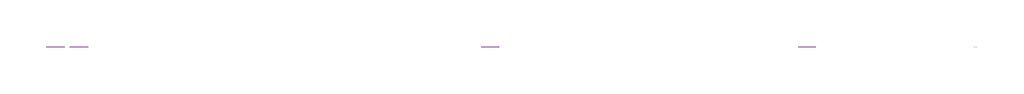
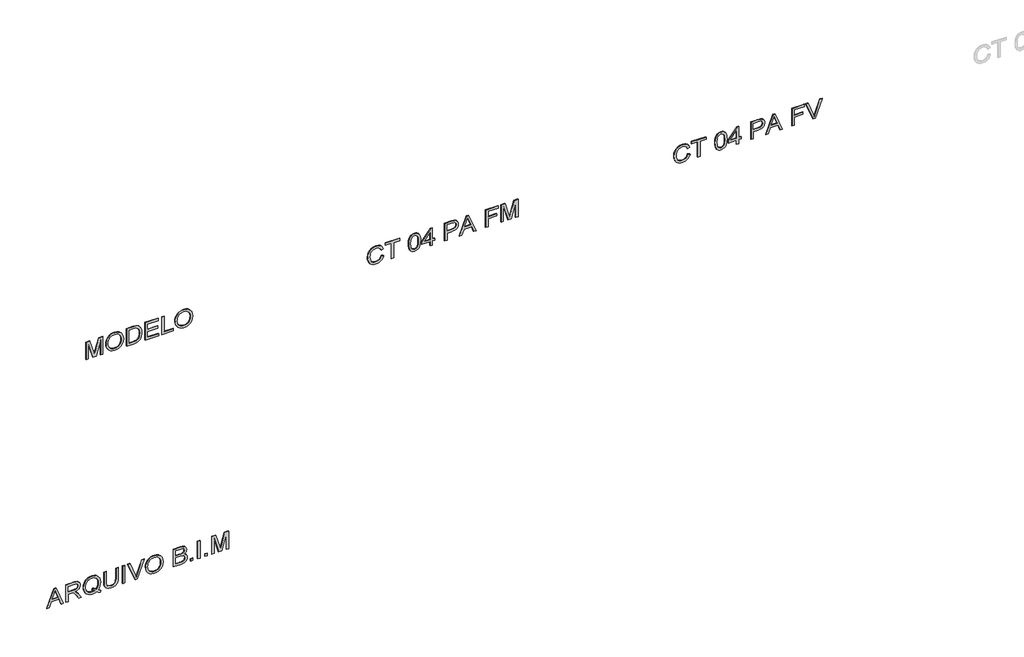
# One storey, part 1 of 2: 4 proxies.
"""IFC4 building model written with IfcOpenShell, lengths in millimetres."""

from ifc_helpers import new_model, si_unit, frame, origin, place, context, project, spatial, polyline, outline, extrude, element, save

model = new_model("IFC4")

# Units and contexts
model_context = context("Model", 3, world=origin())
ifc_project = project(units=[si_unit("LENGTHUNIT", "METRE", prefix="MILLI")], contexts=[model_context])

# Site, building, storey
site = spatial("IfcSite", under=ifc_project)
building = spatial("IfcBuilding", under=site)
storey = spatial("IfcBuildingStorey", under=building, Name="03 - Marelli - Planta Baixa - Cabine 04 Pessoas", Elevation=-24000.0)

# Proxies
placement = place(None, origin())
element("IfcBuildingElementProxy", 1, Name="300mm Arial", ObjectType="300mm Arial", at=placement, inside=storey, context=model_context, shape_type="SweptSolid", body=[
    extrude(outline(polyline([(-22400.0, -7636.3146377), (-22400.0, -7596.5098058), (-22305.8222092, -7562.076051), (-22305.8222092, -7437.9526659), (-22400.0, -7403.4453347), (-22400.0, -7363.6405028), (-22098.6310696, -7483.9379153), (-22098.6310696, -7516.0172252), (-22400.0, -7636.3146377)]), holes=[polyline([(-22268.1510929, -7548.243688), (-22187.584936, -7518.739552), (-22136.3021859, -7499.9775703), (-22194.0596591, -7478.8611437), (-22268.1510929, -7451.7114525), (-22268.1510929, -7548.243688)])]), frame((0.0, 8778.3159498, 0.0), z_axis=(0.0, 1.0, 0.0), x_axis=(0.0, 0.0, 1.0)), (0.0, 0.0, 1.0), 10.0),
    extrude(outline(polyline([(-22400.0, -7323.3942126), (-22400.0, -7285.7230963), (-22268.1510929, -7285.7230963), (-22268.1510929, -7240.2528817), (-22269.4754681, -7218.4006911), (-22276.649167, -7200.484838), (-22296.183701, -7180.582422), (-22337.5336372, -7152.2555084), (-22400.0, -7113.0392877), (-22400.0, -7069.2613303), (-22318.3301971, -7119.5140108), (-22279.5554348, -7150.0482164), (-22263.4422034, -7171.4589486), (-22253.4542072, -7134.3488523), (-22245.4389783, -7119.9669655), (-22235.4095954, -7108.3671864), (-22210.7982899, -7093.0540983), (-22181.1102129, -7087.9497357), (-22157.2438684, -7091.0307474), (-22135.5296337, -7100.2737825), (-22118.0184507, -7114.6763626), (-22106.7612616, -7133.2360093), (-22100.6636176, -7158.629064), (-22098.6310696, -7193.5318683), (-22098.6310696, -7323.3942126), (-22400.0, -7323.3942126)]), holes=[polyline([(-22230.4799766, -7285.7230963), (-22136.3021859, -7285.7230963), (-22136.3021859, -7191.9131875), (-22139.5579415, -7162.1055488), (-22149.3252085, -7141.5501423), (-22164.1324588, -7129.6031746), (-22182.5081645, -7125.620852), (-22195.8162956, -7127.7085823), (-22208.0759631, -7133.9717732), (-22218.2111121, -7144.254075), (-22225.1456877, -7158.3991377), (-22229.1464044, -7177.1887106), (-22230.4799766, -7201.404543), (-22230.4799766, -7285.7230963)])]), frame((0.0, 8778.3159498, 0.0), z_axis=(0.0, 1.0, 0.0), x_axis=(0.0, 0.0, 1.0)), (0.0, 0.0, 1.0), 10.0),
    extrude(outline(polyline([(-22363.8739881, -6795.6307023), (-22340.3479345, -6777.1814202), (-22313.0326963, -6764.0664271), (-22281.9650618, -6756.2305406), (-22247.1818192, -6753.6185784), (-22205.3536364, -6757.9227978), (-22168.0136138, -6770.8354558), (-22136.8172207, -6791.9610794), (-22113.4199258, -6820.9041954), (-22098.7966164, -6855.7702114), (-22093.92218, -6894.6645354), (-22098.6862519, -6933.2553567), (-22112.9784674, -6967.9466288), (-22136.3849593, -6996.93573), (-22168.4918604, -7018.4200386), (-22206.944726, -7031.7189727), (-22249.3891112, -7036.1519507), (-22291.7967082, -7031.7097756), (-22329.6977507, -7018.3832504), (-22361.3539964, -6996.8161684), (-22385.0272028, -6967.6523232), (-22399.7884679, -6932.8322924), (-22404.7088895, -6894.2966534), (-22400.4414584, -6855.9449554), (-22387.639165, -6821.0881364), (-22408.47968, -6790.1308665), (-22422.8822601, -6759.063232), (-22395.2911105, -6748.9096889), (-22382.4704229, -6771.2953083), (-22363.8739881, -6795.6307023)]), holes=[polyline([(-22313.7684603, -6883.9223811), (-22342.6104088, -6893.6344658), (-22349.287467, -6873.2721974), (-22359.3122513, -6853.9767867), (-22365.1063928, -6873.6032912), (-22367.0377732, -6894.5173826), (-22365.1362832, -6916.2385151), (-22359.431813, -6935.9316982), (-22349.9243627, -6953.5969318), (-22336.6139322, -6969.2342158), (-22319.748842, -6982.0296115), (-22299.5774124, -6991.1691798), (-22276.0996433, -6996.6529208), (-22249.3155348, -6998.4808344), (-22221.8140564, -6996.6322274), (-22197.9500112, -6991.0864063), (-22177.7233993, -6981.8433712), (-22161.1342205, -6968.903122), (-22148.2100662, -6953.1577726), (-22138.9785274, -6935.4994369), (-22133.4396041, -6915.9281147), (-22131.5932963, -6894.4438062), (-22135.2445251, -6865.9605427), (-22146.1982115, -6840.4019411), (-22163.7645768, -6819.2027411), (-22187.2538422, -6803.7976826), (-22215.9394408, -6794.4166917), (-22249.0948056, -6791.2896947), (-22278.2678478, -6793.5015852), (-22303.5413409, -6800.1372567), (-22324.9152848, -6811.1967092), (-22342.3896796, -6826.6799427), (-22325.7430193, -6852.2477413), (-22313.7684603, -6883.9223811)])]), frame((0.0, 8778.3159498, 0.0), z_axis=(0.0, 1.0, 0.0), x_axis=(0.0, 0.0, 1.0)), (0.0, 0.0, 1.0), 10.0),
    extrude(outline(polyline([(-22098.6310696, -6499.3385434), (-22271.1677253, -6499.3385434), (-22318.3301971, -6504.1026152), (-22335.0688279, -6510.057705), (-22347.2457219, -6518.3948307), (-22355.9047444, -6529.5278596), (-22362.0897604, -6543.8706589), (-22367.0377732, -6582.1855687), (-22364.5361757, -6606.3554158), (-22357.031383, -6626.4785609), (-22344.9188683, -6641.9112106), (-22328.5941047, -6652.0095714), (-22305.0220659, -6657.5829836), (-22271.1677253, -6659.4407877), (-22098.6310696, -6659.4407877), (-22098.6310696, -6697.111904), (-22272.4921005, -6697.111904), (-22315.2675795, -6694.2516215), (-22347.9446977, -6685.6707739), (-22372.3076828, -6670.4036711), (-22390.1407625, -6647.4846228), (-22401.0668578, -6616.904432), (-22404.7088895, -6578.6539015), (-22400.5242318, -6539.5480454), (-22387.9702588, -6508.7563224), (-22368.7484245, -6486.2235502), (-22344.5601833, -6471.8945465), (-22313.2074403, -6464.2242069), (-22272.4921005, -6461.6674271), (-22098.6310696, -6461.6674271), (-22098.6310696, -6499.3385434)])), frame((0.0, 8778.3159498, 0.0), z_axis=(0.0, 1.0, 0.0), x_axis=(0.0, 0.0, 1.0)), (0.0, 0.0, 1.0), 10.0),
    extrude(outline(polyline([(-6353.3629677, 8778.3159498), (-6391.034084, 8778.3159498), (-6391.034084, 8788.3159498), (-6353.3629677, 8788.3159498), (-6353.3629677, 8778.3159498)])), frame((0.0, 0.0, -22400.0), z_axis=(0.0, 0.0, 1.0), x_axis=(1.0, 0.0, 0.0)), (0.0, 0.0, 1.0), 301.3689304),
    extrude(outline(polyline([(-22400.0, -6188.9932922), (-22400.0, -6150.0713771), (-22098.6310696, -6035.2186183), (-22098.6310696, -6075.5384849), (-22315.7550231, -6156.0310655), (-22364.6833285, -6172.0707205), (-22315.7550231, -6188.3311046), (-22098.6310696, -6268.602956), (-22098.6310696, -6308.9228227), (-22400.0, -6188.9932922)])), frame((0.0, 8778.3159498, 0.0), z_axis=(0.0, 1.0, 0.0), x_axis=(0.0, 0.0, 1.0)), (0.0, 0.0, 1.0), 10.0),
    extrude(outline(polyline([(-22253.2886603, -6014.3229209), (-22291.8334964, -6010.0187016), (-22328.2997991, -5997.1060436), (-22359.992833, -5975.8424642), (-22384.2178624, -5946.485481), (-22399.5861328, -5910.8377157), (-22404.7088895, -5870.70179), (-22400.0735764, -5832.892718), (-22386.167637, -5797.7507904), (-22363.2485887, -5767.7868019), (-22331.5739489, -5745.5115471), (-22293.1118863, -5731.6883811), (-22249.8305696, -5727.0806591), (-22207.1194699, -5731.4584548), (-22169.1908362, -5744.5918421), (-22137.5713787, -5766.0761506), (-22113.7878078, -5795.5067102), (-22098.8885869, -5830.9521404), (-22093.92218, -5870.4810608), (-22096.5663319, -5900.7715446), (-22104.4987874, -5928.1465636), (-22117.7195466, -5952.6061177), (-22136.2286095, -5974.1502071), (-22159.4097737, -5991.7257694), (-22186.6468369, -6004.2797425), (-22217.9397991, -6011.8121263), (-22253.2886603, -6014.3229209)]), holes=[polyline([(-22253.6565423, -5976.6518046), (-22223.1200375, -5974.6882345), (-22197.2878236, -5968.797524), (-22176.1599008, -5958.9796733), (-22159.736269, -5945.2346822), (-22147.4237184, -5928.7673644), (-22138.6290395, -5910.7825334), (-22133.3522321, -5891.2801891), (-22131.5932963, -5870.2603316), (-22135.2445251, -5841.0964864), (-22146.1982115, -5814.9676677), (-22163.7921679, -5793.3086153), (-22187.3642068, -5777.5540688), (-22216.1877611, -5767.9523488), (-22249.536264, -5764.7517754), (-22276.0743514, -5766.6210758), (-22299.4026684, -5772.228977), (-22319.521215, -5781.5754789), (-22336.4299912, -5794.6605816), (-22349.8208959, -5810.642755), (-22359.3858277, -5828.6804691), (-22365.1247869, -5848.7737238), (-22367.0377732, -5870.9225192), (-22365.143181, -5892.6988341), (-22359.4594041, -5912.557564), (-22349.9864428, -5930.4987091), (-22336.7242968, -5946.5222692), (-22320.1650085, -5959.703941), (-22300.80062, -5969.1194208), (-22278.6311313, -5974.7687087), (-22253.6565423, -5976.6518046)])]), frame((0.0, 8778.3159498, 0.0), z_axis=(0.0, 1.0, 0.0), x_axis=(0.0, 0.0, 1.0)), (0.0, 0.0, 1.0), 10.0),
    extrude(outline(polyline([(-22400.0, -5557.5606357), (-22400.0, -5443.4436408), (-22394.8128639, -5395.1407348), (-22388.3933231, -5377.10532), (-22379.5089729, -5362.3624491), (-22367.2401083, -5350.3235108), (-22350.6670244, -5340.399894), (-22331.1784758, -5333.7504269), (-22310.1632168, -5331.5339379), (-22284.944906, -5334.7804965), (-22263.2950506, -5344.5201723), (-22246.3356906, -5360.2931129), (-22235.1888662, -5381.6394656), (-22223.4442335, -5363.7695977), (-22208.5174215, -5351.0684718), (-22191.456894, -5343.4809057), (-22173.3111146, -5340.951717), (-22153.5926396, -5343.9591523), (-22134.7570815, -5352.9814582), (-22118.7450176, -5367.3104619), (-22107.4970256, -5386.2379906), (-22100.8475586, -5410.9320695), (-22098.6310696, -5442.560724), (-22098.6310696, -5557.5606357), (-22400.0, -5557.5606357)]), holes=[polyline([(-22221.0621975, -5519.8895194), (-22136.3021859, -5519.8895194), (-22136.3021859, -5456.3195106), (-22140.2385232, -5407.9062401), (-22145.8395266, -5395.4166463), (-22154.769862, -5386.2012024), (-22166.2109921, -5380.5174255), (-22179.3443793, -5378.6228333), (-22192.8732397, -5380.6553813), (-22203.8821084, -5386.7530254), (-22212.2422267, -5396.8605832), (-22217.824836, -5410.9228724), (-22221.0621975, -5451.0955863), (-22221.0621975, -5519.8895194)]), polyline([(-22362.3288837, -5519.8895194), (-22258.7333139, -5519.8895194), (-22258.7333139, -5446.3131204), (-22259.9933097, -5419.4853259), (-22263.7732972, -5399.776048), (-22270.6618875, -5385.8609115), (-22281.247692, -5376.4155413), (-22294.7857494, -5371.007676), (-22310.5310988, -5369.2050542), (-22324.0875503, -5370.7409615), (-22335.9149564, -5375.3486835), (-22352.6535872, -5391.0204565), (-22360.8573557, -5414.6752688), (-22362.3288837, -5442.6343004), (-22362.3288837, -5519.8895194)])]), frame((0.0, 8778.3159498, 0.0), z_axis=(0.0, 1.0, 0.0), x_axis=(0.0, 0.0, 1.0)), (0.0, 0.0, 1.0), 10.0),
    extrude(outline(polyline([(-5237.3561471, 8778.3159498), (-5275.0272634, 8778.3159498), (-5275.0272634, 8788.3159498), (-5237.3561471, 8788.3159498), (-5237.3561471, 8778.3159498)])), frame((0.0, 0.0, -22400.0), z_axis=(0.0, 0.0, 1.0), x_axis=(1.0, 0.0, 0.0)), (0.0, 0.0, 1.0), 37.6711163),
    extrude(outline(polyline([(-5119.6339087, 8778.3159498), (-5157.305025, 8778.3159498), (-5157.305025, 8788.3159498), (-5119.6339087, 8788.3159498), (-5119.6339087, 8778.3159498)])), frame((0.0, 0.0, -22400.0), z_axis=(0.0, 0.0, 1.0), x_axis=(1.0, 0.0, 0.0)), (0.0, 0.0, 1.0), 301.3689304),
    extrude(outline(polyline([(-5001.9116702, 8778.3159498), (-5039.5827865, 8778.3159498), (-5039.5827865, 8788.3159498), (-5001.9116702, 8788.3159498), (-5001.9116702, 8778.3159498)])), frame((0.0, 0.0, -22400.0), z_axis=(0.0, 0.0, 1.0), x_axis=(1.0, 0.0, 0.0)), (0.0, 0.0, 1.0), 37.6711163),
    extrude(outline(polyline([(-22400.0, -4926.5694376), (-22400.0, -4888.8983213), (-22136.3021859, -4888.8983213), (-22400.0, -4813.1882067), (-22400.0, -4762.1261857), (-22136.3021859, -4686.4160711), (-22400.0, -4686.4160711), (-22400.0, -4648.7449548), (-22098.6310696, -4648.7449548), (-22098.6310696, -4713.5657624), (-22307.3673136, -4774.1927152), (-22355.4127022, -4787.6571962), (-22311.0461336, -4800.0916076), (-22098.6310696, -4861.74863), (-22098.6310696, -4926.5694376), (-22400.0, -4926.5694376)])), frame((0.0, 8778.3159498, 0.0), z_axis=(0.0, 1.0, 0.0), x_axis=(0.0, 0.0, 1.0)), (0.0, 0.0, 1.0), 10.0),
])
element("IfcBuildingElementProxy", 2, Name="300mm Arial", ObjectType="300mm Arial", at=placement, inside=storey, context=model_context, shape_type="SweptSolid", body=[
    extrude(outline(polyline([(-18300.0, -6993.7719449), (-18300.0, -6956.1008286), (-18036.3021859, -6956.1008286), (-18300.0, -6880.390714), (-18300.0, -6829.328693), (-18036.3021859, -6753.6185784), (-18300.0, -6753.6185784), (-18300.0, -6715.9474621), (-17998.6310696, -6715.9474621), (-17998.6310696, -6780.7682697), (-18207.3673136, -6841.3952225), (-18255.4127022, -6854.8597035), (-18211.0461336, -6867.2941149), (-17998.6310696, -6928.9511373), (-17998.6310696, -6993.7719449), (-18300.0, -6993.7719449)])), frame((0.0, 8778.3159498, 0.0), z_axis=(0.0, 1.0, 0.0), x_axis=(0.0, 0.0, 1.0)), (0.0, 0.0, 1.0), 10.0),
    extrude(outline(polyline([(-18153.2886603, -6664.1496772), (-18191.8334964, -6659.8454579), (-18228.2997991, -6646.9327998), (-18259.992833, -6625.6692205), (-18284.2178624, -6596.3122373), (-18299.5861328, -6560.664472), (-18304.7088895, -6520.5285463), (-18300.0735764, -6482.7194742), (-18286.167637, -6447.5775466), (-18263.2485887, -6417.6135581), (-18231.5739489, -6395.3383033), (-18193.1118863, -6381.5151374), (-18149.8305696, -6376.9074154), (-18107.1194699, -6381.2852111), (-18069.1908362, -6394.4185983), (-18037.5713787, -6415.9029069), (-18013.7878078, -6445.3334665), (-17998.8885869, -6480.7788967), (-17993.92218, -6520.3078171), (-17996.5663319, -6550.5983009), (-18004.4987874, -6577.9733198), (-18017.7195466, -6602.432874), (-18036.2286095, -6623.9769633), (-18059.4097737, -6641.5525257), (-18086.6468369, -6654.1064987), (-18117.9397991, -6661.6388826), (-18153.2886603, -6664.1496772)]), holes=[polyline([(-18153.6565423, -6626.4785609), (-18123.1200375, -6624.5149908), (-18097.2878236, -6618.6242803), (-18076.1599008, -6608.8064296), (-18059.736269, -6595.0614385), (-18047.4237184, -6578.5941207), (-18038.6290395, -6560.6092897), (-18033.3522321, -6541.1069454), (-18031.5932963, -6520.0870879), (-18035.2445251, -6490.9232427), (-18046.1982115, -6464.794424), (-18063.7921679, -6443.1353716), (-18087.3642068, -6427.3808251), (-18116.1877611, -6417.779105), (-18149.536264, -6414.5785317), (-18176.0743514, -6416.4478321), (-18199.4026684, -6422.0557332), (-18219.521215, -6431.4022352), (-18236.4299912, -6444.4873379), (-18249.8208959, -6460.4695113), (-18259.3858277, -6478.5072254), (-18265.1247869, -6498.6004801), (-18267.0377732, -6520.7492755), (-18265.143181, -6542.5255903), (-18259.4594041, -6562.3843203), (-18249.9864428, -6580.3254653), (-18236.7242968, -6596.3490255), (-18220.1650085, -6609.5306972), (-18200.80062, -6618.9461771), (-18178.6311313, -6624.5954649), (-18153.6565423, -6626.4785609)])]), frame((0.0, 8778.3159498, 0.0), z_axis=(0.0, 1.0, 0.0), x_axis=(0.0, 0.0, 1.0)), (0.0, 0.0, 1.0), 10.0),
    extrude(outline(polyline([(-18300.0, -6325.1096305), (-18300.0, -6216.1429835), (-18294.8496521, -6167.6929247), (-18288.4944906, -6148.1491937), (-18279.7297021, -6131.6772774), (-18267.911493, -6117.3298796), (-18252.3960698, -6104.1597042), (-18232.7419742, -6092.7185741), (-18208.5077478, -6083.5583124), (-18180.0428784, -6077.5434418), (-18147.696854, -6075.5384849), (-18109.6210675, -6078.499935), (-18076.0334413, -6087.3842852), (-18047.4857985, -6102.2283237), (-18024.529962, -6123.0688387), (-18011.3413925, -6143.3391366), (-18002.9720771, -6167.3618309), (-17998.6310696, -6221.1461786), (-17998.6310696, -6325.1096305), (-18300.0, -6325.1096305)]), holes=[polyline([(-18262.3288837, -6287.4385141), (-18036.3021859, -6287.4385141), (-18036.3021859, -6221.8083662), (-18037.810502, -6190.06015), (-18042.3354506, -6168.3919005), (-18054.9170148, -6147.10073), (-18075.7391357, -6129.2860444), (-18106.0526121, -6117.228712), (-18147.1082428, -6113.2096012), (-18178.0931038, -6115.2605434), (-18204.0931639, -6121.4133697), (-18225.2003933, -6131.245016), (-18241.5067628, -6144.332418), (-18250.3175366, -6156.5093121), (-18256.8842302, -6172.2914497), (-18260.9677203, -6193.2055411), (-18262.3288837, -6220.7782966), (-18262.3288837, -6287.4385141)])]), frame((0.0, 8778.3159498, 0.0), z_axis=(0.0, 1.0, 0.0), x_axis=(0.0, 0.0, 1.0)), (0.0, 0.0, 1.0), 10.0),
    extrude(outline(polyline([(-18300.0, -6023.7407), (-18300.0, -5802.4228917), (-18262.3288837, -5802.4228917), (-18262.3288837, -5986.0695837), (-18163.4422034, -5986.0695837), (-18163.4422034, -5816.5495603), (-18125.7710871, -5816.5495603), (-18125.7710871, -5986.0695837), (-18036.3021859, -5986.0695837), (-18036.3021859, -5807.1317812), (-17998.6310696, -5807.1317812), (-17998.6310696, -6023.7407), (-18300.0, -6023.7407)])), frame((0.0, 8778.3159498, 0.0), z_axis=(0.0, 1.0, 0.0), x_axis=(0.0, 0.0, 1.0)), (0.0, 0.0, 1.0), 10.0),
    extrude(outline(polyline([(-18300.0, -5745.9162172), (-18300.0, -5557.5606357), (-18262.3288837, -5557.5606357), (-18262.3288837, -5708.2451009), (-17998.6310696, -5708.2451009), (-17998.6310696, -5745.9162172), (-18300.0, -5745.9162172)])), frame((0.0, 8778.3159498, 0.0), z_axis=(0.0, 1.0, 0.0), x_axis=(0.0, 0.0, 1.0)), (0.0, 0.0, 1.0), 10.0),
    extrude(outline(polyline([(-18153.2886603, -5529.3072985), (-18191.8334964, -5525.0030791), (-18228.2997991, -5512.0904211), (-18259.992833, -5490.8268418), (-18284.2178624, -5461.4698586), (-18299.5861328, -5425.8220932), (-18304.7088895, -5385.6861676), (-18300.0735764, -5347.8770955), (-18286.167637, -5312.7351679), (-18263.2485887, -5282.7711794), (-18231.5739489, -5260.4959246), (-18193.1118863, -5246.6727586), (-18149.8305696, -5242.0650367), (-18107.1194699, -5246.4428324), (-18069.1908362, -5259.5762196), (-18037.5713787, -5281.0605281), (-18013.7878078, -5310.4910878), (-17998.8885869, -5345.936518), (-17993.92218, -5385.4654384), (-17996.5663319, -5415.7559222), (-18004.4987874, -5443.1309411), (-18017.7195466, -5467.5904953), (-18036.2286095, -5489.1345846), (-18059.4097737, -5506.7101469), (-18086.6468369, -5519.26412), (-18117.9397991, -5526.7965039), (-18153.2886603, -5529.3072985)]), holes=[polyline([(-18153.6565423, -5491.6361822), (-18123.1200375, -5489.672612), (-18097.2878236, -5483.7819016), (-18076.1599008, -5473.9640508), (-18059.736269, -5460.2190598), (-18047.4237184, -5443.751742), (-18038.6290395, -5425.7669109), (-18033.3522321, -5406.2645667), (-18031.5932963, -5385.2447092), (-18035.2445251, -5356.080864), (-18046.1982115, -5329.9520453), (-18063.7921679, -5308.2929928), (-18087.3642068, -5292.5384464), (-18116.1877611, -5282.9367263), (-18149.536264, -5279.736153), (-18176.0743514, -5281.6054533), (-18199.4026684, -5287.2133545), (-18219.521215, -5296.5598565), (-18236.4299912, -5309.6449592), (-18249.8208959, -5325.6271326), (-18259.3858277, -5343.6648467), (-18265.1247869, -5363.7581014), (-18267.0377732, -5385.9068968), (-18265.143181, -5407.6832116), (-18259.4594041, -5427.5419416), (-18249.9864428, -5445.4830866), (-18236.7242968, -5461.5066468), (-18220.1650085, -5474.6883185), (-18200.80062, -5484.1037983), (-18178.6311313, -5489.7530862), (-18153.6565423, -5491.6361822)])]), frame((0.0, 8778.3159498, 0.0), z_axis=(0.0, 1.0, 0.0), x_axis=(0.0, 0.0, 1.0)), (0.0, 0.0, 1.0), 10.0),
])
element("IfcBuildingElementProxy", 3, Name="300mm Arial", ObjectType="300mm Arial", at=placement, inside=storey, context=model_context, shape_type="SweptSolid", body=[
    extrude(outline(polyline([(-18192.872763, -2142.1019653), (-18225.136014, -2154.2880564), (-18248.3493679, -2174.0709107), (-18262.3656719, -2200.2733058), (-18267.0377732, -2231.7180194), (-18263.6072736, -2258.6929667), (-18253.3157748, -2283.6997453), (-18236.0897004, -2304.5586544), (-18211.855474, -2319.0899932), (-18181.7627268, -2327.6156585), (-18146.96109, -2330.4575469), (-18118.5422059, -2328.0571169), (-18090.9694503, -2320.8558268), (-18066.5788741, -2307.7316366), (-18047.7065277, -2287.5625062), (-18035.6216042, -2260.9830321), (-18031.5932963, -2228.6278106), (-18035.226131, -2200.5584144), (-18046.1246351, -2177.7129425), (-18064.9693903, -2159.8706657), (-18092.4409783, -2146.8108549), (-18083.4646576, -2109.1397386), (-18045.6463885, -2125.7772018), (-18030.3241034, -2137.5793161), (-18017.3930513, -2151.7036854), (-18007.1245451, -2167.8835954), (-17999.7898978, -2185.8523316), (-17993.92218, -2227.1562826), (-17998.4563256, -2265.0113399), (-18012.0587624, -2299.5554593), (-18034.3983965, -2328.6825162), (-18065.1441343, -2350.2863864), (-18103.0911621, -2363.668094), (-18147.0346664, -2368.1286632), (-18188.6973024, -2364.1831288), (-18227.6008233, -2352.3465256), (-18260.6918088, -2332.9591444), (-18284.9168382, -2306.3612762), (-18299.7608767, -2271.660807), (-18304.7088895, -2227.965623), (-18303.0741139, -2205.5432154), (-18298.1697871, -2184.9234296), (-18289.995909, -2166.1062655), (-18278.5524797, -2149.0917233), (-18263.995849, -2134.2154951), (-18246.4823668, -2121.8132733), (-18226.012033, -2111.885058), (-18202.5848477, -2104.430849), (-18192.872763, -2142.1019653)])), frame((0.0, 8778.3159498, 0.0), z_axis=(0.0, 1.0, 0.0), x_axis=(0.0, 0.0, 1.0)), (0.0, 0.0, 1.0), 10.0),
    extrude(outline(polyline([(-18300.0, -1977.2908315), (-18300.0, -1939.6197152), (-18036.3021859, -1939.6197152), (-18036.3021859, -1840.7330349), (-17998.6310696, -1840.7330349), (-17998.6310696, -2076.1775118), (-18036.3021859, -2076.1775118), (-18036.3021859, -1977.2908315), (-18300.0, -1977.2908315)])), frame((0.0, 8778.3159498, 0.0), z_axis=(0.0, 1.0, 0.0), x_axis=(0.0, 0.0, 1.0)), (0.0, 0.0, 1.0), 10.0),
    extrude(outline(polyline([(-18151.7435559, -1694.7574592), (-18191.1851044, -1692.881261), (-18225.0440435, -1687.2526665), (-18253.3203733, -1677.8716756), (-18276.0140939, -1664.7382884), (-18288.568067, -1651.0530782), (-18297.5351906, -1635.0134232), (-18302.9154648, -1616.6193234), (-18304.7088895, -1595.8707789), (-18300.5794141, -1565.4193468), (-18288.190988, -1540.7252678), (-18267.4056552, -1521.6229952), (-18238.0854602, -1507.9469821), (-18199.7061711, -1499.7248195), (-18151.7435559, -1496.9840986), (-18111.7823742, -1498.6947499), (-18080.9262719, -1503.8267037), (-18056.6276661, -1511.6625902), (-18036.3389741, -1521.4850395), (-18020.1981515, -1534.489668), (-18008.3431542, -1551.8720923), (-18001.0590907, -1572.657425), (-17998.6310696, -1595.8707789), (-18002.7329538, -1626.1566642), (-18015.0386065, -1650.7955608), (-18035.7411658, -1669.9254245), (-18065.0337697, -1683.6842112), (-18103.5050293, -1691.9891472), (-18151.7435559, -1694.7574592)]), holes=[polyline([(-18151.6699795, -1657.0863429), (-18093.1767423, -1652.5246062), (-18072.097104, -1646.8224352), (-18056.4621192, -1638.8393959), (-18041.3421692, -1619.8934732), (-18036.3021859, -1596.3122373), (-18042.0227509, -1571.4066262), (-18059.184446, -1551.7249395), (-18073.5456393, -1544.256935), (-18093.7469594, -1538.9226461), (-18151.6699795, -1534.6552149), (-18210.8346014, -1539.0697988), (-18231.0980016, -1544.5880288), (-18245.1487945, -1552.3135507), (-18261.5655286, -1572.0320256), (-18267.0377732, -1595.8707789), (-18261.5839227, -1619.7095322), (-18245.2223709, -1639.4280071), (-18231.1945706, -1647.153529), (-18210.9265719, -1652.671759), (-18151.6699795, -1657.0863429)])]), frame((0.0, 8778.3159498, 0.0), z_axis=(0.0, 1.0, 0.0), x_axis=(0.0, 0.0, 1.0)), (0.0, 0.0, 1.0), 10.0),
    extrude(outline(polyline([(-18300.0, -1341.5907438), (-18300.0, -1303.9196275), (-18229.3666569, -1303.9196275), (-18229.3666569, -1266.2485112), (-18191.6955406, -1266.2485112), (-18191.6955406, -1303.9196275), (-18003.3399591, -1303.9196275), (-18003.3399591, -1332.1729648), (-18191.6955406, -1478.1485404), (-18229.3666569, -1478.1485404), (-18229.3666569, -1341.5907438), (-18300.0, -1341.5907438)]), holes=[polyline([(-18191.6955406, -1341.5907438), (-18191.6955406, -1431.7954091), (-18075.2976773, -1341.5907438), (-18191.6955406, -1341.5907438)])]), frame((0.0, 8778.3159498, 0.0), z_axis=(0.0, 1.0, 0.0), x_axis=(0.0, 0.0, 1.0)), (0.0, 0.0, 1.0), 10.0),
    extrude(outline(polyline([(-18300.0, -1101.4373774), (-18300.0, -1063.7662611), (-18177.568872, -1063.7662611), (-18177.568872, -987.1732297), (-18175.904206, -957.9748956), (-18170.9102079, -933.6555964), (-18162.5868778, -914.2153323), (-18150.9342156, -899.654103), (-18136.8765248, -889.0476053), (-18121.338109, -881.4715354), (-18104.3189682, -876.9258935), (-18085.8191024, -875.4106796), (-18064.362385, -877.6547597), (-18044.7266835, -884.3870002), (-18028.0800233, -894.8072577), (-18015.5904295, -908.1153889), (-18006.8624292, -924.6424876), (-18001.5005491, -944.7196474), (-17998.6310696, -989.7484037), (-17998.6310696, -1101.4373774), (-18300.0, -1101.4373774)]), holes=[polyline([(-18139.8977557, -1063.7662611), (-18036.3021859, -1063.7662611), (-18036.3021859, -985.8488545), (-18038.8773598, -948.1777382), (-18045.2049301, -933.949902), (-18055.9470844, -922.7570923), (-18070.2209058, -915.50062), (-18087.1434776, -913.0817959), (-18109.4187324, -917.1836801), (-18126.0653927, -929.4893328), (-18136.4396649, -951.5622526), (-18139.8977557, -984.9659377), (-18139.8977557, -1063.7662611)])]), frame((0.0, 8778.3159498, 0.0), z_axis=(0.0, 1.0, 0.0), x_axis=(0.0, 0.0, 1.0)), (0.0, 0.0, 1.0), 10.0),
    extrude(outline(polyline([(-18300.0, -858.708837), (-18300.0, -818.9040051), (-18205.8222092, -784.4702503), (-18205.8222092, -660.3468652), (-18300.0, -625.839534), (-18300.0, -586.0347021), (-17998.6310696, -706.3321146), (-17998.6310696, -738.4114245), (-18300.0, -858.708837)]), holes=[polyline([(-18168.1510929, -770.6378873), (-18087.584936, -741.1337513), (-18036.3021859, -722.3717696), (-18094.0596591, -701.255343), (-18168.1510929, -674.1056518), (-18168.1510929, -770.6378873)])]), frame((0.0, 8778.3159498, 0.0), z_axis=(0.0, 1.0, 0.0), x_axis=(0.0, 0.0, 1.0)), (0.0, 0.0, 1.0), 10.0),
    extrude(outline(polyline([(-18300.0, -428.0661734), (-18300.0, -390.3950571), (-18163.4422034, -390.3950571), (-18163.4422034, -249.128371), (-18125.7710871, -249.128371), (-18125.7710871, -390.3950571), (-18036.3021859, -390.3950571), (-18036.3021859, -225.5839233), (-17998.6310696, -225.5839233), (-17998.6310696, -428.0661734), (-18300.0, -428.0661734)])), frame((0.0, 8778.3159498, 0.0), z_axis=(0.0, 1.0, 0.0), x_axis=(0.0, 0.0, 1.0)), (0.0, 0.0, 1.0), 10.0),
    extrude(outline(polyline([(-18300.0, -173.7861383), (-18300.0, -136.115022), (-18036.3021859, -136.115022), (-18300.0, -60.4049074), (-18300.0, -9.3428865), (-18036.3021859, 66.3672281), (-18300.0, 66.3672281), (-18300.0, 104.0383444), (-17998.6310696, 104.0383444), (-17998.6310696, 39.2175369), (-18207.3673136, -21.4094159), (-18255.4127022, -34.873897), (-18211.0461336, -47.3083084), (-17998.6310696, -108.9653308), (-17998.6310696, -173.7861383), (-18300.0, -173.7861383)])), frame((0.0, 8778.3159498, 0.0), z_axis=(0.0, 1.0, 0.0), x_axis=(0.0, 0.0, 1.0)), (0.0, 0.0, 1.0), 10.0),
])
element("IfcBuildingElementProxy", 4, Name="300mm Arial", ObjectType="300mm Arial", at=placement, inside=storey, context=model_context, shape_type="SweptSolid", body=[
    extrude(outline(polyline([(-18192.872763, 2890.8602614), (-18225.136014, 2878.6741703), (-18248.3493679, 2858.891316), (-18262.3656719, 2832.6889209), (-18267.0377732, 2801.2442074), (-18263.6072736, 2774.2692601), (-18253.3157748, 2749.2624815), (-18236.0897004, 2728.4035724), (-18211.855474, 2713.8722335), (-18181.7627268, 2705.3465683), (-18146.96109, 2702.5046799), (-18118.5422059, 2704.9051099), (-18090.9694503, 2712.1064), (-18066.5788741, 2725.2305901), (-18047.7065277, 2745.3997205), (-18035.6216042, 2771.9791947), (-18031.5932963, 2804.3344162), (-18035.226131, 2832.4038124), (-18046.1246351, 2855.2492843), (-18064.9693903, 2873.0915611), (-18092.4409783, 2886.1513719), (-18083.4646576, 2923.8224882), (-18045.6463885, 2907.185025), (-18030.3241034, 2895.3829107), (-18017.3930513, 2881.2585414), (-18007.1245451, 2865.0786314), (-17999.7898978, 2847.1098951), (-17993.92218, 2805.8059441), (-17998.4563256, 2767.9508868), (-18012.0587624, 2733.4067675), (-18034.3983965, 2704.2797105), (-18065.1441343, 2682.6758404), (-18103.0911621, 2669.2941328), (-18147.0346664, 2664.8335636), (-18188.6973024, 2668.779098), (-18227.6008233, 2680.6157012), (-18260.6918088, 2700.0030823), (-18284.9168382, 2726.6009506), (-18299.7608767, 2761.3014198), (-18304.7088895, 2804.9966038), (-18303.0741139, 2827.4190114), (-18298.1697871, 2848.0387972), (-18289.995909, 2866.8559612), (-18278.5524797, 2883.8705035), (-18263.995849, 2898.7467317), (-18246.4823668, 2911.1489535), (-18226.012033, 2921.0771688), (-18202.5848477, 2928.5313777), (-18192.872763, 2890.8602614)])), frame((0.0, 8778.3159498, 0.0), z_axis=(0.0, 1.0, 0.0), x_axis=(0.0, 0.0, 1.0)), (0.0, 0.0, 1.0), 10.0),
    extrude(outline(polyline([(-18300.0, 3055.6713953), (-18300.0, 3093.3425116), (-18036.3021859, 3093.3425116), (-18036.3021859, 3192.2291919), (-17998.6310696, 3192.2291919), (-17998.6310696, 2956.784715), (-18036.3021859, 2956.784715), (-18036.3021859, 3055.6713953), (-18300.0, 3055.6713953)])), frame((0.0, 8778.3159498, 0.0), z_axis=(0.0, 1.0, 0.0), x_axis=(0.0, 0.0, 1.0)), (0.0, 0.0, 1.0), 10.0),
    extrude(outline(polyline([(-18151.7435559, 3338.2047676), (-18191.1851044, 3340.0809657), (-18225.0440435, 3345.7095603), (-18253.3203733, 3355.0905511), (-18276.0140939, 3368.2239384), (-18288.568067, 3381.9091486), (-18297.5351906, 3397.9488036), (-18302.9154648, 3416.3429033), (-18304.7088895, 3437.0914479), (-18300.5794141, 3467.54288), (-18288.190988, 3492.2369589), (-18267.4056552, 3511.3392315), (-18238.0854602, 3525.0152447), (-18199.7061711, 3533.2374073), (-18151.7435559, 3535.9781282), (-18111.7823742, 3534.2674769), (-18080.9262719, 3529.1355231), (-18056.6276661, 3521.2996366), (-18036.3389741, 3511.4771873), (-18020.1981515, 3498.4725588), (-18008.3431542, 3481.0901345), (-18001.0590907, 3460.3048018), (-17998.6310696, 3437.0914479), (-18002.7329538, 3406.8055626), (-18015.0386065, 3382.166666), (-18035.7411658, 3363.0368022), (-18065.0337697, 3349.2780156), (-18103.5050293, 3340.9730796), (-18151.7435559, 3338.2047676)]), holes=[polyline([(-18151.6699795, 3375.8758839), (-18093.1767423, 3380.4376206), (-18072.097104, 3386.1397915), (-18056.4621192, 3394.1228308), (-18041.3421692, 3413.0687536), (-18036.3021859, 3436.6499895), (-18042.0227509, 3461.5556005), (-18059.184446, 3481.2372873), (-18073.5456393, 3488.7052918), (-18093.7469594, 3494.0395807), (-18151.6699795, 3498.3070119), (-18210.8346014, 3493.8924279), (-18231.0980016, 3488.374198), (-18245.1487945, 3480.6486761), (-18261.5655286, 3460.9302012), (-18267.0377732, 3437.0914479), (-18261.5839227, 3413.2526946), (-18245.2223709, 3393.5342196), (-18231.1945706, 3385.8086977), (-18210.9265719, 3380.2904678), (-18151.6699795, 3375.8758839)])]), frame((0.0, 8778.3159498, 0.0), z_axis=(0.0, 1.0, 0.0), x_axis=(0.0, 0.0, 1.0)), (0.0, 0.0, 1.0), 10.0),
    extrude(outline(polyline([(-18300.0, 3691.3714829), (-18300.0, 3729.0425992), (-18229.3666569, 3729.0425992), (-18229.3666569, 3766.7137155), (-18191.6955406, 3766.7137155), (-18191.6955406, 3729.0425992), (-18003.3399591, 3729.0425992), (-18003.3399591, 3700.789262), (-18191.6955406, 3554.8136863), (-18229.3666569, 3554.8136863), (-18229.3666569, 3691.3714829), (-18300.0, 3691.3714829)]), holes=[polyline([(-18191.6955406, 3691.3714829), (-18191.6955406, 3601.1668177), (-18075.2976773, 3691.3714829), (-18191.6955406, 3691.3714829)])]), frame((0.0, 8778.3159498, 0.0), z_axis=(0.0, 1.0, 0.0), x_axis=(0.0, 0.0, 1.0)), (0.0, 0.0, 1.0), 10.0),
    extrude(outline(polyline([(-18300.0, 3931.5248494), (-18300.0, 3969.1959657), (-18177.568872, 3969.1959657), (-18177.568872, 4045.7889971), (-18175.904206, 4074.9873312), (-18170.9102079, 4099.3066303), (-18162.5868778, 4118.7468945), (-18150.9342156, 4133.3081237), (-18136.8765248, 4143.9146215), (-18121.338109, 4151.4906913), (-18104.3189682, 4156.0363333), (-18085.8191024, 4157.5515472), (-18064.362385, 4155.307467), (-18044.7266835, 4148.5752265), (-18028.0800233, 4138.154969), (-18015.5904295, 4124.8468378), (-18006.8624292, 4108.3197392), (-18001.5005491, 4088.2425793), (-17998.6310696, 4043.2138231), (-17998.6310696, 3931.5248494), (-18300.0, 3931.5248494)]), holes=[polyline([(-18139.8977557, 3969.1959657), (-18036.3021859, 3969.1959657), (-18036.3021859, 4047.1133723), (-18038.8773598, 4084.7844886), (-18045.2049301, 4099.0123247), (-18055.9470844, 4110.2051344), (-18070.2209058, 4117.4616068), (-18087.1434776, 4119.8804309), (-18109.4187324, 4115.7785467), (-18126.0653927, 4103.4728939), (-18136.4396649, 4081.3999742), (-18139.8977557, 4047.9962891), (-18139.8977557, 3969.1959657)])]), frame((0.0, 8778.3159498, 0.0), z_axis=(0.0, 1.0, 0.0), x_axis=(0.0, 0.0, 1.0)), (0.0, 0.0, 1.0), 10.0),
    extrude(outline(polyline([(-18300.0, 4174.2533898), (-18300.0, 4214.0582217), (-18205.8222092, 4248.4919764), (-18205.8222092, 4372.6153616), (-18300.0, 4407.1226927), (-18300.0, 4446.9275246), (-17998.6310696, 4326.6301122), (-17998.6310696, 4294.5508022), (-18300.0, 4174.2533898)]), holes=[polyline([(-18168.1510929, 4262.3243394), (-18087.584936, 4291.8284755), (-18036.3021859, 4310.5904572), (-18094.0596591, 4331.7068837), (-18168.1510929, 4358.856575), (-18168.1510929, 4262.3243394)])]), frame((0.0, 8778.3159498, 0.0), z_axis=(0.0, 1.0, 0.0), x_axis=(0.0, 0.0, 1.0)), (0.0, 0.0, 1.0), 10.0),
    extrude(outline(polyline([(-18300.0, 4604.8960534), (-18300.0, 4642.5671697), (-18163.4422034, 4642.5671697), (-18163.4422034, 4783.8338558), (-18125.7710871, 4783.8338558), (-18125.7710871, 4642.5671697), (-18036.3021859, 4642.5671697), (-18036.3021859, 4807.3783035), (-17998.6310696, 4807.3783035), (-17998.6310696, 4604.8960534), (-18300.0, 4604.8960534)])), frame((0.0, 8778.3159498, 0.0), z_axis=(0.0, 1.0, 0.0), x_axis=(0.0, 0.0, 1.0)), (0.0, 0.0, 1.0), 10.0),
    extrude(outline(polyline([(-18300.0, 4948.2035313), (-18300.0, 4987.1254463), (-17998.6310696, 5101.9782052), (-17998.6310696, 5061.6583386), (-18215.7550231, 4981.165758), (-18264.6833285, 4965.126103), (-18215.7550231, 4948.8657188), (-17998.6310696, 4868.5938675), (-17998.6310696, 4828.2740008), (-18300.0, 4948.2035313)])), frame((0.0, 8778.3159498, 0.0), z_axis=(0.0, 1.0, 0.0), x_axis=(0.0, 0.0, 1.0)), (0.0, 0.0, 1.0), 10.0),
])

save(model, "model.ifc")
